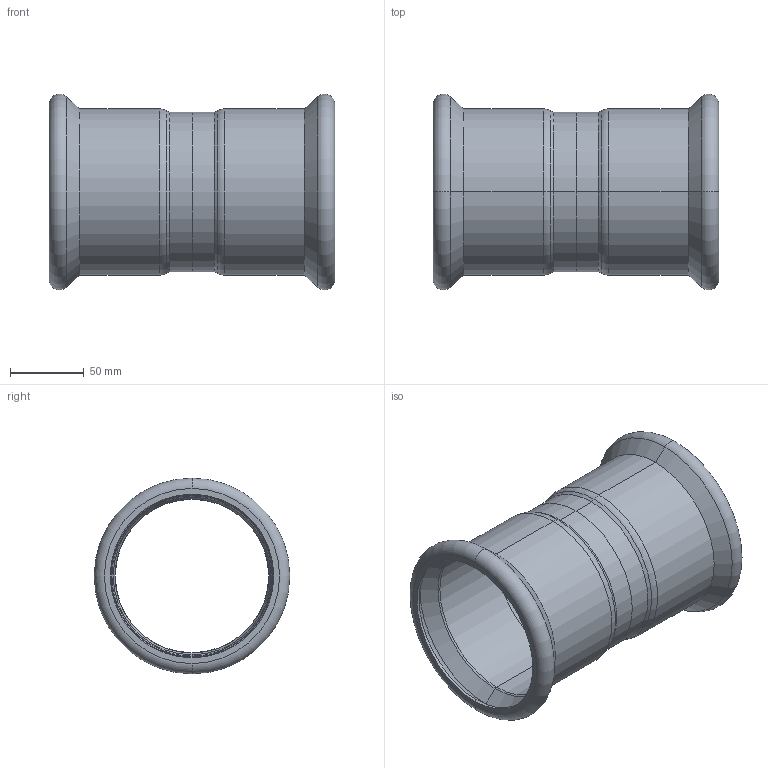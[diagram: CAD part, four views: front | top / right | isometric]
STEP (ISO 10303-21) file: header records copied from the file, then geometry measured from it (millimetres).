
FILE_DESCRIPTION (( 'STEP AP203' ), '1' );
FILE_NAME ('GDA5010.STEP', '2019-01-21T08:55:48', ( '' ), ( '' ), 'SwSTEP 2.0', 'SolidWorks 2015', '' );
FILE_SCHEMA (( 'CONFIG_CONTROL_DESIGN' ));
Length unit declared in the file: millimetre
Products named in the file (1): GDA5010
Bounding box: 194 x 132.76 x 132.76 mm (x, y, z)
Volume: 152936.7 mm3; surface area: 155680.4 mm2
Topology: 2 solids, 2 shells, 66 faces, 132 edges, 72 vertices
Faces by surface type: torus 24, cylinder 20, cone 16, plane 6
Entity records: 1791 total; most frequent: DIRECTION 362, CARTESIAN_POINT 271, ORIENTED_EDGE 264, AXIS2_PLACEMENT_3D 163, EDGE_CURVE 132, CIRCLE 96, EDGE_LOOP 72, VERTEX_POINT 72
